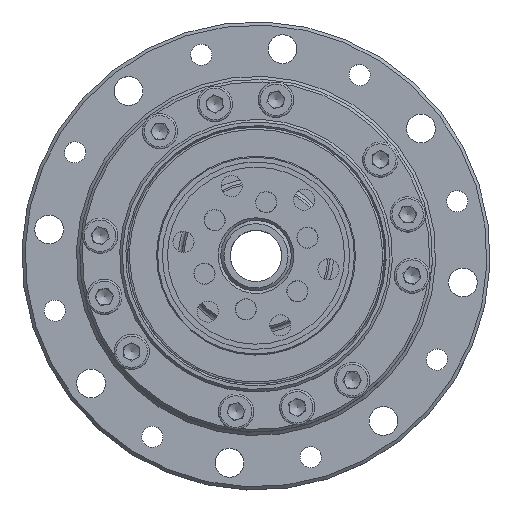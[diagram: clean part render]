
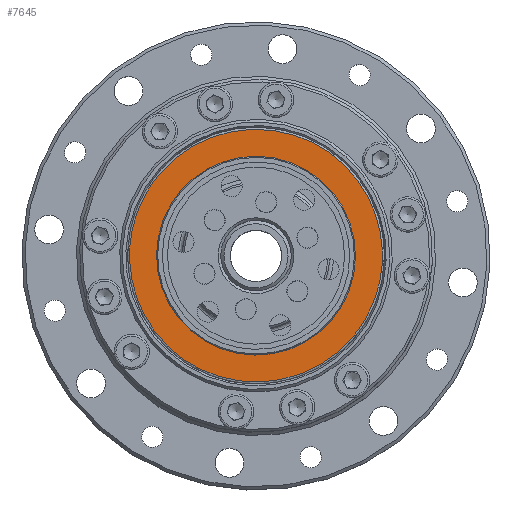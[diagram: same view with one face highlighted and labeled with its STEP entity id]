
A CAD part, top view. The second image highlights one B-rep face of the part: STEP entity #7645.
In plain terms, the highlighted planar face has unit normal (0, 0, 1).
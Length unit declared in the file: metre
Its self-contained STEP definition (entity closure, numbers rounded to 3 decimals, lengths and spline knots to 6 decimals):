
#410 =( BOUNDED_CURVE ( )  B_SPLINE_CURVE ( 3, ( #1026, #7317, #13445, #10958 ),
 .UNSPECIFIED., .F., .F. ) 
 B_SPLINE_CURVE_WITH_KNOTS ( ( 4, 4 ),
 ( 0., 1. ),
 .UNSPECIFIED. ) 
 CURVE ( )  GEOMETRIC_REPRESENTATION_ITEM ( )  RATIONAL_B_SPLINE_CURVE ( ( 1., 0.333, 0.333, 1. ) ) 
 REPRESENTATION_ITEM ( '' )  );
#892 = CARTESIAN_POINT ( 'NONE',  ( -0.014934, 0.012848, 0.03455 ) ) ;
#1026 = CARTESIAN_POINT ( 'NONE',  ( 0.014934, -0.012848, 0.03455 ) ) ;
#1102 = FACE_OUTER_BOUND ( 'NONE', #7297, .T. ) ;
#2837 = EDGE_CURVE ( 'NONE', #6882, #9893, #410, .T. ) ;
#3386 = AXIS2_PLACEMENT_3D ( 'NONE', #21756, #13918, #11971 ) ;
#4440 = DIRECTION ( 'NONE',  ( 0., 0., 1. ) ) ;
#5403 = AXIS2_PLACEMENT_3D ( 'NONE', #16352, #4440, #12419 ) ;
#6332 = ORIENTED_EDGE ( 'NONE', *, *, #2837, .F. ) ;
#6882 = VERTEX_POINT ( 'NONE', #19970 ) ;
#7297 = EDGE_LOOP ( 'NONE', ( #22536, #6332 ) ) ;
#7317 = CARTESIAN_POINT ( 'NONE',  ( -0.010762, -0.042716, 0.03455 ) ) ;
#7645 = ADVANCED_FACE ( 'NONE', ( #1102, #9065 ), #21111, .F. ) ;
#8495 = VERTEX_POINT ( 'NONE', #16728 ) ;
#9065 = FACE_BOUND ( 'NONE', #20125, .T. ) ;
#9893 = VERTEX_POINT ( 'NONE', #13456 ) ;
#10720 = ORIENTED_EDGE ( 'NONE', *, *, #24831, .F. ) ;
#10958 = CARTESIAN_POINT ( 'NONE',  ( -0.014934, 0.012848, 0.03455 ) ) ;
#11971 = DIRECTION ( 'NONE',  ( 0.758, -0.652, 0. ) ) ;
#12419 = DIRECTION ( 'NONE',  ( 0.758, -0.652, 0. ) ) ;
#12553 = CARTESIAN_POINT ( 'NONE',  ( 0.04063, 0.01702, 0.03455 ) ) ;
#13066 = CARTESIAN_POINT ( 'NONE',  ( 0.010762, 0.042716, 0.03455 ) ) ;
#13445 = CARTESIAN_POINT ( 'NONE',  ( -0.04063, -0.01702, 0.03455 ) ) ;
#13456 = CARTESIAN_POINT ( 'NONE',  ( -0.014934, 0.012848, 0.03455 ) ) ;
#13918 = DIRECTION ( 'NONE',  ( 0., 0., -1. ) ) ;
#16352 = CARTESIAN_POINT ( 'NONE',  ( 0., 0., 0.03455 ) ) ;
#16665 = CIRCLE ( 'NONE', #5403, 0.015 ) ;
#16713 =( BOUNDED_CURVE ( )  B_SPLINE_CURVE ( 3, ( #892, #13066, #12553, #24427 ),
 .UNSPECIFIED., .F., .T. ) 
 B_SPLINE_CURVE_WITH_KNOTS ( ( 4, 4 ),
 ( 0., 1. ),
 .UNSPECIFIED. ) 
 CURVE ( )  GEOMETRIC_REPRESENTATION_ITEM ( )  RATIONAL_B_SPLINE_CURVE ( ( 1., 0.333, 0.333, 1. ) ) 
 REPRESENTATION_ITEM ( '' )  );
#16728 = CARTESIAN_POINT ( 'NONE',  ( 0.011371, -0.009783, 0.03455 ) ) ;
#19970 = CARTESIAN_POINT ( 'NONE',  ( 0.014934, -0.012848, 0.03455 ) ) ;
#20125 = EDGE_LOOP ( 'NONE', ( #10720 ) ) ;
#21111 = PLANE ( 'NONE',  #3386 ) ;
#21756 = CARTESIAN_POINT ( 'NONE',  ( -0.012848, -0.014934, 0.03455 ) ) ;
#22536 = ORIENTED_EDGE ( 'NONE', *, *, #24864, .F. ) ;
#24427 = CARTESIAN_POINT ( 'NONE',  ( 0.014934, -0.012848, 0.03455 ) ) ;
#24831 = EDGE_CURVE ( 'NONE', #8495, #8495, #16665, .T. ) ;
#24864 = EDGE_CURVE ( 'NONE', #9893, #6882, #16713, .T. ) ;
